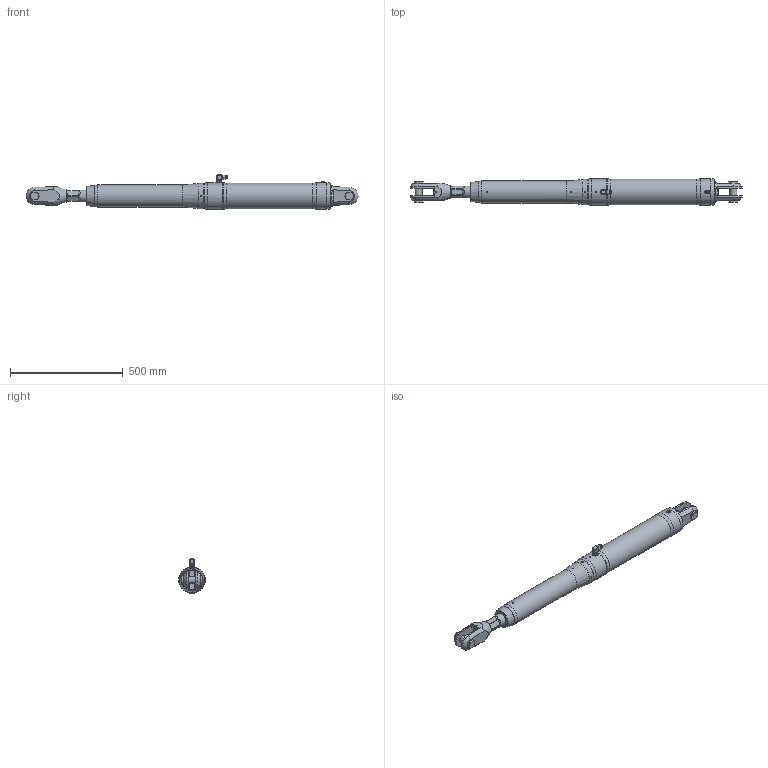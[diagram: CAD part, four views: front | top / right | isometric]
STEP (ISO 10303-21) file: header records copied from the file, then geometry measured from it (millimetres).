
FILE_DESCRIPTION(/* description */ (''),/* implementation_level */ '2;1');
FILE_NAME(/* name */ 'Q:\AA BRAND HYDRAULICS\HYDRAULICS FAMILY DIRECTORY\HYDRAULICS\CYLINDERS\MECHANICAL LOCK RAMS\ALUMINIUM - STAINLESS SINGLE ACTING (-0012 To -0150)\MSA-0060-S0375-NP-71\MSA-0060-S0375-NP-71 (Closed).stp',/* time_stamp */ '2018-04-25T16:38:53+01:00',/* author */ ('Lorena'),/* organization */ (''),/* preprocessor_version */ 'ST-DEVELOPER v17',/* originating_system */ 'Autodesk Inventor 2018',/* authorisation */ '');
FILE_SCHEMA (('AUTOMOTIVE_DESIGN { 1 0 10303 214 3 1 1 }'));
Length unit declared in the file: millimetre
Products named in the file (1): MSA-0060-S0375-NP-71 (Closed)
Bounding box: 1474.15 x 117.4 x 152.95 mm (x, y, z)
Volume: 11184251.9 mm3; surface area: 532815.9 mm2
Topology: 2 solids, 4 shells, 493 faces, 1293 edges, 842 vertices
Faces by surface type: plane 279, cone 124, cylinder 76, torus 6, bspline 4, sphere 4
Full cylindrical faces by diameter (mm): 4 x1, 4.134 x1, 4.2 x2, 5 x2, 6 x4, 7 x1, 7.5 x1, 8.1 x1, 9 x1, 10 x2, 14 x1, 14.35 x1, 14.662 x1, 15 x2, 15.662 x1, 16.662 x2, 18 x2, 20 x2, 21.4 x3, 25 x1, 31.75 x2, 34.25 x1, 39.688 x2, 53 x2, 54 x2, 57 x1, 98 x1, 114.4 x1, 117.4 x4
Entity records: 16653 total; most frequent: CARTESIAN_POINT 4131, ORIENTED_EDGE 2568, DIRECTION 2497, EDGE_CURVE 1284, AXIS2_PLACEMENT_3D 958, VERTEX_POINT 843, LINE 581, VECTOR 581
